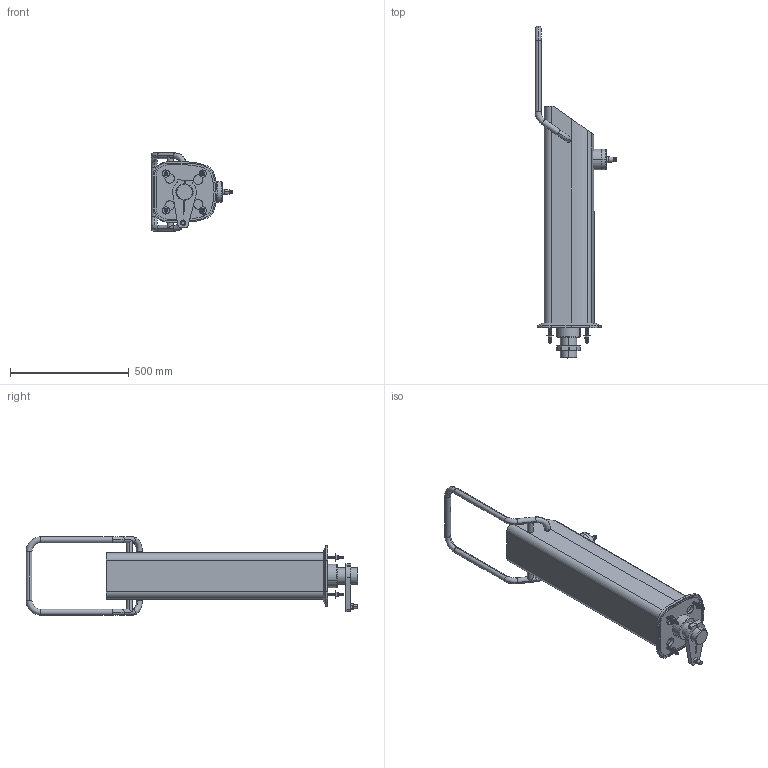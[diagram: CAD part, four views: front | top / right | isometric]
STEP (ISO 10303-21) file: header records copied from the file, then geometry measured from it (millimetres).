
FILE_DESCRIPTION (( 'STEP AP214' ), '1' );
FILE_NAME ('RP150-71.STEP', '2014-09-09T09:24:14', ( '' ), ( '' ), 'SwSTEP 2.0', 'SolidWorks 2014', '' );
FILE_SCHEMA (( 'AUTOMOTIVE_DESIGN' ));
Length unit declared in the file: millimetre
Products named in the file (22): Z-DIN0976-M10 Studbolt M10x080-1^RP150-71_simple; Z-DIN0985-M10 Locknut A2 M10-1^RP150-71_simple; RP150-71; Z-DIN9021-M10 Washer for 10mm shaft-5^RP150-71_simple; Guardrail B RP150-1^RP150-71_simple; Output lever-1^RP150-71_simple; Z4-230 Bearinghouse RP-1^RP150-71_simple; Z4-211 RP71 Downtube ø70x84-1^RP150-71_simple; Z4-190 RP300 input pinion 25mm 14T-1^RP150-71_simple; PUR025055-1^RP150-71_simple; Z4-145 input socket-1^RP150-71_simple; Z-DIN0985-M10 Locknut A2 M10-3^RP150-71_simple; RP150 profile-1^RP150-71_simple; RP150 bottom-1^RP150-71_simple; Z-DIN0976-M10 Studbolt M10x080-3^RP150-71_simple; Z-DIN9021-M10 Washer for 10mm shaft-8^RP150-71_simple; Z-DIN9021-M10 Washer for 10mm shaft-6^RP150-71_simple; Z-DIN0985-M10 Locknut A2 M10-4^RP150-71_simple; Z-DIN0985-M10 Locknut A2 M10-2^RP150-71_simple; Z-DIN0976-M10 Studbolt M10x080-4^RP150-71_simple; Z-DIN0976-M10 Studbolt M10x080-2^RP150-71_simple; Z-DIN9021-M10 Washer for 10mm shaft-7^RP150-71_simple
Assembly tree (21 placements, depth 2):
  RP150-71
    Z-DIN9021-M10 Washer for 10mm shaft-7^RP150-71_simple
    Z-DIN0976-M10 Studbolt M10x080-4^RP150-71_simple
    Z-DIN0985-M10 Locknut A2 M10-4^RP150-71_simple
    Z-DIN9021-M10 Washer for 10mm shaft-8^RP150-71_simple
    RP150 bottom-1^RP150-71_simple
    RP150 profile-1^RP150-71_simple
    Z4-145 input socket-1^RP150-71_simple
    PUR025055-1^RP150-71_simple
    Z4-190 RP300 input pinion 25mm 14T-1^RP150-71_simple
    Z4-211 RP71 Downtube ø70x84-1^RP150-71_simple
    Z4-230 Bearinghouse RP-1^RP150-71_simple
    Output lever-1^RP150-71_simple
    Guardrail B RP150-1^RP150-71_simple
    Z-DIN9021-M10 Washer for 10mm shaft-5^RP150-71_simple
    Z-DIN0985-M10 Locknut A2 M10-1^RP150-71_simple
    Z-DIN0976-M10 Studbolt M10x080-1^RP150-71_simple
    Z-DIN0976-M10 Studbolt M10x080-2^RP150-71_simple
    Z-DIN0985-M10 Locknut A2 M10-2^RP150-71_simple
    Z-DIN9021-M10 Washer for 10mm shaft-6^RP150-71_simple
    Z-DIN0976-M10 Studbolt M10x080-3^RP150-71_simple
    Z-DIN0985-M10 Locknut A2 M10-3^RP150-71_simple
Bounding box: 344.61 x 1399.52 x 330 mm (x, y, z)
Volume: 38908239.1 mm3; surface area: 1324031.4 mm2
Topology: 21 solids, 21 shells, 1958 faces, 4976 edges, 3094 vertices
Faces by surface type: cone 1042, cylinder 693, plane 182, torus 22, bspline 19
Entity records: 71397 total; most frequent: CARTESIAN_POINT 21195, DIRECTION 11418, ORIENTED_EDGE 9952, EDGE_CURVE 4976, AXIS2_PLACEMENT_3D 4748, VERTEX_POINT 3094, CIRCLE 2785, EDGE_LOOP 2026
